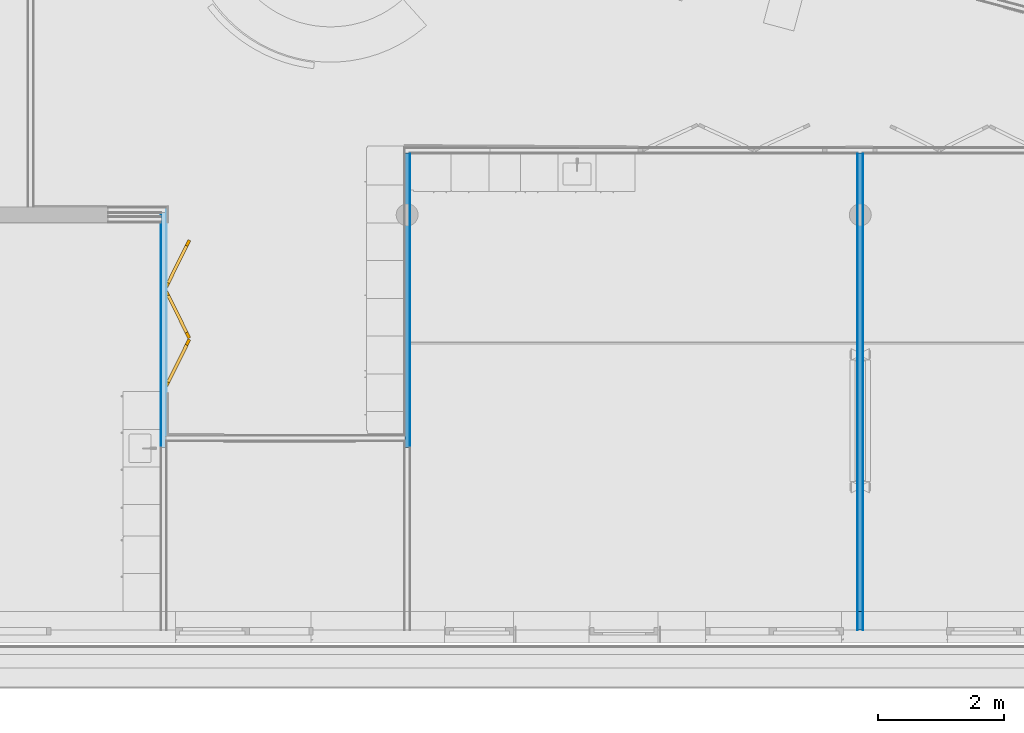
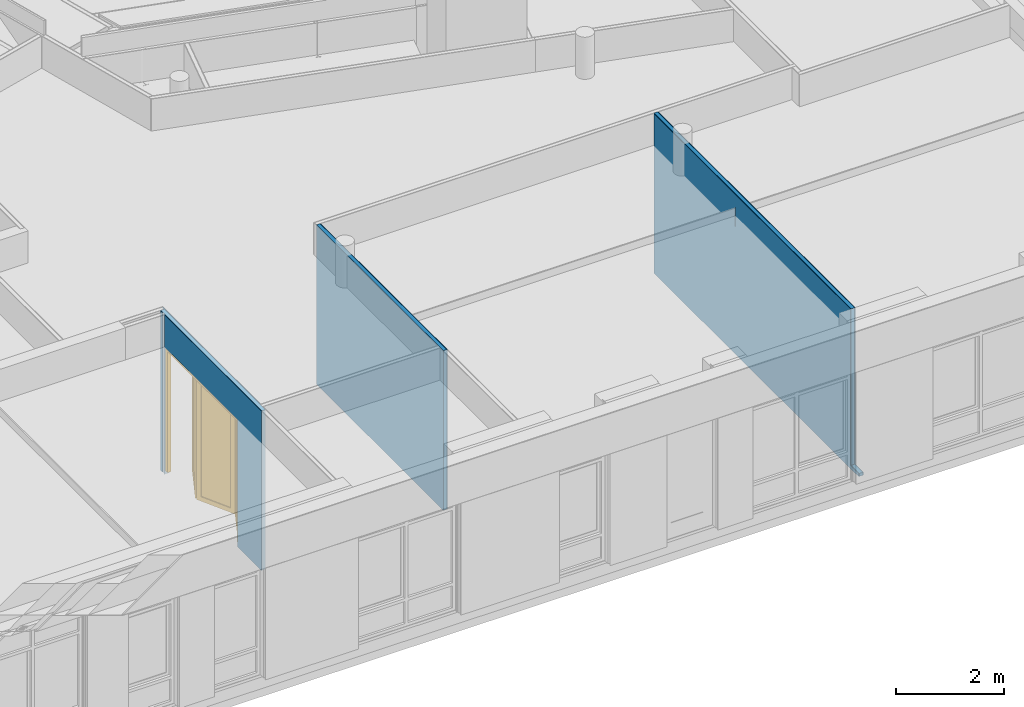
# One storey, part 52 of 167: 6 building element parts, 1 door, 1 opening, 3 elements without a shape of their own, plus 2 elements that do not belong to this part.
"""IFC2X3 building model written with IfcOpenShell, lengths in millimetres."""

from ifc_helpers import new_model, entity, si_unit, converted_unit, derived_unit, money_unit, direction, frame, origin_with_axes, place, context, subcontext, project, spatial, open_shell, faceted_brep, surface_model, material, type_object, element, fill, aggregate, save


model = new_model("IFC2X3")

# Units and contexts
model_context = context("Model", 3, precision=0.01, world=origin_with_axes(), true_north=direction((0.0, 1.0)))
plan_context = context("Plan", 3, precision=0.01, world=origin_with_axes(), true_north=direction((0.0, 1.0)))
body_context = subcontext(model_context, "Body", "Model", "MODEL_VIEW")
ifc_project = project(units=[si_unit("LENGTHUNIT", "METRE", prefix="MILLI"), si_unit("AREAUNIT", "SQUARE_METRE"), si_unit("VOLUMEUNIT", "CUBIC_METRE"), converted_unit("PLANEANGLEUNIT", "DEGREE", entity("IfcPlaneAngleMeasure", 0.0174532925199), si_unit("PLANEANGLEUNIT", "RADIAN"), dimensions=[0, 0, 0, 0, 0, 0, 0]), si_unit("SOLIDANGLEUNIT", "STERADIAN"), money_unit("EUR"), converted_unit("TIMEUNIT", "Year", entity("IfcTimeMeasure", 31556926.0), si_unit("TIMEUNIT", "SECOND"), dimensions=[0, 0, 1, 0, 0, 0, 0]), si_unit("MASSUNIT", "GRAM", prefix="KILO"), si_unit("THERMODYNAMICTEMPERATUREUNIT", "DEGREE_CELSIUS"), si_unit("LUMINOUSINTENSITYUNIT", "LUMEN"), si_unit("ENERGYUNIT", "JOULE", prefix="MEGA"), derived_unit("THERMALCONDUCTANCEUNIT", [(si_unit("POWERUNIT", "WATT"), 1), (si_unit("LENGTHUNIT", "METRE"), -1), (si_unit("THERMODYNAMICTEMPERATUREUNIT", "KELVIN"), -1)]), derived_unit("SPECIFICHEATCAPACITYUNIT", [(si_unit("ENERGYUNIT", "JOULE"), 1), (si_unit("MASSUNIT", "GRAM", prefix="KILO"), -1), (si_unit("THERMODYNAMICTEMPERATUREUNIT", "KELVIN"), -1)]), derived_unit("MASSDENSITYUNIT", [(si_unit("MASSUNIT", "GRAM", prefix="KILO"), 1), (si_unit("VOLUMEUNIT", "CUBIC_METRE"), -1)])], contexts=[model_context, plan_context])

# Site, building, storey
site_placement = place(None, origin_with_axes())
site = spatial("IfcSite", under=ifc_project, at=site_placement, Name="Site", CompositionType="ELEMENT")
building_placement = place(site_placement, origin_with_axes())
building = spatial("IfcBuilding", under=site, at=building_placement, Name="Naam gebouw", CompositionType="ELEMENT")
storey_placement = place(building_placement, origin_with_axes())
storey = spatial("IfcBuildingStorey", under=building, at=storey_placement, Name="Begane grond", CompositionType="ELEMENT", Elevation=0.0)

# Door
door_style = type_object("IfcDoorStyle", Name="DV1 24", ConstructionType="NOTDEFINED", OperationType="FOLDING_TO_LEFT", ParameterTakesPrecedence=False, Sizeable=False)
wall_2_placement = place(storey_placement, frame((10531.8272344, 3650.0, -100.0), z_axis=(0.0, 0.0, 1.0), x_axis=(0.0, 1.0, 0.0)))
opening_placement = place(wall_2_placement, frame((2075.0, 0.0, 100.0), z_axis=(0.0, 0.0, 1.0), x_axis=(1.0, 0.0, 0.0)))
door_placement = place(opening_placement, frame((1350.0, 0.0, 0.0), z_axis=(0.0, 0.0, 1.0), x_axis=(-1.0, 0.0, 0.0)))
door = element("IfcDoor", 1, at=door_placement, inside=storey, type_object=door_style, Name="32_Deur_Si-03", ObjectType="DOOR", OverallHeight=2800.0, OverallWidth=2700.0, context=body_context, shape_type="SurfaceModel", body=[
    faceted_brep([(2700.0, 50.0, 0.0), (2700.0, -30.0, 0.0), (2633.0, -30.0, 0.0), (2633.0, 50.0, 0.0), (2700.0, 50.0, 2733.0), (2700.0, -30.0, 2733.0), (2633.0, -30.0, 2733.0), (2633.0, 50.0, 2733.0)], [[[0, 1, 2, 3]], [[4, 5, 1, 0]], [[1, 5, 6, 2]], [[3, 2, 6, 7]], [[0, 3, 7, 4]], [[7, 6, 5, 4]]]),
    faceted_brep([(0.0, 50.0, 0.0), (0.0, -30.0, 0.0), (0.0, -30.0, 2733.0), (0.0, 50.0, 2733.0), (67.0, 50.0, 0.0), (67.0, -30.0, 0.0), (67.0, -30.0, 2733.0), (67.0, 50.0, 2733.0)], [[[0, 1, 2, 3]], [[4, 5, 1, 0]], [[1, 5, 6, 2]], [[3, 2, 6, 7]], [[0, 3, 7, 4]], [[7, 6, 5, 4]]]),
    faceted_brep([(2700.0, 50.0, 2800.0), (2700.0, -30.0, 2800.0), (2700.0, -30.0, 2733.0), (2700.0, 50.0, 2733.0), (0.0, 50.0, 2800.0), (0.0, -30.0, 2800.0), (0.0, -30.0, 2733.0), (67.0, -30.0, 2733.0), (2633.0, -30.0, 2733.0), (2633.0, 50.0, 2733.0), (67.0, 50.0, 2733.0), (0.0, 50.0, 2733.0)], [[[0, 1, 2, 3]], [[4, 5, 1, 0]], [[1, 5, 6, 7, 8, 2]], [[3, 2, 8, 9]], [[0, 3, 9, 10, 11, 4]], [[11, 6, 5, 4]], [[10, 7, 6, 11]], [[9, 8, 7, 10]]]),
    faceted_brep([(2633.0, 50.0, 100.0), (2610.80870806, 5.1943467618, 100.0), (2521.19740159, 49.5769306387, 100.0), (2543.38869352, 94.3825838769, 100.0), (2633.0, 50.0, 2633.0), (2610.80870806, 5.1943467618, 2633.0), (2521.19740159, 49.5769306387, 2633.0), (2543.38869352, 94.3825838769, 2633.0)], [[[0, 1, 2, 3]], [[4, 5, 1, 0]], [[1, 5, 6, 2]], [[3, 2, 6, 7]], [[0, 3, 7, 4]], [[7, 6, 5, 4]]]),
    faceted_brep([(1866.52462527, 429.619034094, 100.0), (1844.33333333, 384.813380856, 100.0), (1844.33333333, 384.813380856, 2633.0), (1866.52462527, 429.619034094, 2633.0), (1956.13593175, 385.236450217, 100.0), (1933.94463981, 340.430796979, 100.0), (1933.94463981, 340.430796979, 2633.0), (1956.13593175, 385.236450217, 2633.0)], [[[0, 1, 2, 3]], [[4, 5, 1, 0]], [[1, 5, 6, 2]], [[3, 2, 6, 7]], [[0, 3, 7, 4]], [[7, 6, 5, 4]]]),
    faceted_brep([(2633.0, 50.0, 0.0), (2610.80870806, 5.1943467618, 0.0), (1844.33333333, 384.813380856, 0.0), (1866.52462527, 429.619034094, 0.0), (2633.0, 50.0, 100.0), (2610.80870806, 5.1943467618, 100.0), (2521.19740159, 49.5769306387, 100.0), (1933.94463981, 340.430796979, 100.0), (1844.33333333, 384.813380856, 100.0), (1866.52462527, 429.619034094, 100.0), (1956.13593175, 385.236450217, 100.0), (2543.38869352, 94.3825838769, 100.0)], [[[0, 1, 2, 3]], [[4, 5, 1, 0]], [[1, 5, 6, 7, 8, 2]], [[3, 2, 8, 9]], [[0, 3, 9, 10, 11, 4]], [[11, 6, 5, 4]], [[10, 7, 6, 11]], [[9, 8, 7, 10]]]),
    faceted_brep([(2633.0, 50.0, 2733.0), (2610.80870806, 5.1943467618, 2733.0), (2610.80870806, 5.1943467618, 2633.0), (2633.0, 50.0, 2633.0), (1866.52462527, 429.619034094, 2733.0), (1844.33333333, 384.813380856, 2733.0), (1844.33333333, 384.813380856, 2633.0), (1933.94463981, 340.430796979, 2633.0), (2521.19740159, 49.5769306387, 2633.0), (2543.38869352, 94.3825838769, 2633.0), (1956.13593175, 385.236450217, 2633.0), (1866.52462527, 429.619034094, 2633.0)], [[[0, 1, 2, 3]], [[4, 5, 1, 0]], [[1, 5, 6, 7, 8, 2]], [[3, 2, 8, 9]], [[0, 3, 9, 10, 11, 4]], [[11, 6, 5, 4]], [[10, 7, 6, 11]], [[9, 8, 7, 10]]]),
    surface_model("IfcShellBasedSurfaceModel", [(1947.70324081, 368.210301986, 100.0), (1947.70324081, 368.210301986, 2633.0), (2534.95600259, 77.3564356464, 2633.0), (2534.95600259, 77.3564356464, 100.0)], [open_shell([[[0, 1, 2, 3]]])]),
    surface_model("IfcShellBasedSurfaceModel", [(1942.37733075, 357.456945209, 100.0), (2529.63009252, 66.6030788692, 100.0), (2529.63009252, 66.6030788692, 2633.0), (1942.37733075, 357.456945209, 2633.0)], [open_shell([[[0, 1, 2, 3]]])]),
    faceted_brep([(1822.14204139, 429.619034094, 100.0), (1844.33333333, 384.813380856, 100.0), (1754.72202686, 340.430796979, 100.0), (1732.53073492, 385.236450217, 100.0), (1822.14204139, 429.619034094, 2633.0), (1844.33333333, 384.813380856, 2633.0), (1754.72202686, 340.430796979, 2633.0), (1732.53073492, 385.236450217, 2633.0)], [[[0, 1, 2, 3]], [[4, 5, 1, 0]], [[1, 5, 6, 2]], [[3, 2, 6, 7]], [[0, 3, 7, 4]], [[7, 6, 5, 4]]]),
    faceted_brep([(1055.66666667, 50.0, 100.0), (1077.85795861, 5.1943467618, 100.0), (1077.85795861, 5.1943467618, 2633.0), (1055.66666667, 50.0, 2633.0), (1145.27797314, 94.3825838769, 100.0), (1167.46926508, 49.5769306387, 100.0), (1167.46926508, 49.5769306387, 2633.0), (1145.27797314, 94.3825838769, 2633.0)], [[[0, 1, 2, 3]], [[4, 5, 1, 0]], [[1, 5, 6, 2]], [[3, 2, 6, 7]], [[0, 3, 7, 4]], [[7, 6, 5, 4]]]),
    faceted_brep([(1822.14204139, 429.619034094, 0.0), (1844.33333333, 384.813380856, 0.0), (1077.85795861, 5.1943467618, 0.0), (1055.66666667, 50.0, 0.0), (1822.14204139, 429.619034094, 100.0), (1844.33333333, 384.813380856, 100.0), (1754.72202686, 340.430796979, 100.0), (1167.46926508, 49.5769306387, 100.0), (1077.85795861, 5.1943467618, 100.0), (1055.66666667, 50.0, 100.0), (1145.27797314, 94.3825838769, 100.0), (1732.53073492, 385.236450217, 100.0)], [[[0, 1, 2, 3]], [[4, 5, 1, 0]], [[1, 5, 6, 7, 8, 2]], [[3, 2, 8, 9]], [[0, 3, 9, 10, 11, 4]], [[11, 6, 5, 4]], [[10, 7, 6, 11]], [[9, 8, 7, 10]]]),
    faceted_brep([(1822.14204139, 429.619034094, 2733.0), (1844.33333333, 384.813380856, 2733.0), (1844.33333333, 384.813380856, 2633.0), (1822.14204139, 429.619034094, 2633.0), (1055.66666667, 50.0, 2733.0), (1077.85795861, 5.1943467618, 2733.0), (1077.85795861, 5.1943467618, 2633.0), (1167.46926508, 49.5769306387, 2633.0), (1754.72202686, 340.430796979, 2633.0), (1732.53073492, 385.236450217, 2633.0), (1145.27797314, 94.3825838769, 2633.0), (1055.66666667, 50.0, 2633.0)], [[[0, 1, 2, 3]], [[4, 5, 1, 0]], [[1, 5, 6, 7, 8, 2]], [[3, 2, 8, 9]], [[0, 3, 9, 10, 11, 4]], [[11, 6, 5, 4]], [[10, 7, 6, 11]], [[9, 8, 7, 10]]]),
    surface_model("IfcShellBasedSurfaceModel", [(1153.71066408, 77.3564356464, 100.0), (1153.71066408, 77.3564356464, 2633.0), (1740.96342586, 368.210301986, 2633.0), (1740.96342586, 368.210301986, 100.0)], [open_shell([[[0, 1, 2, 3]]])]),
    surface_model("IfcShellBasedSurfaceModel", [(1159.03657414, 66.6030788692, 100.0), (1746.28933592, 357.456945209, 100.0), (1746.28933592, 357.456945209, 2633.0), (1159.03657414, 66.6030788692, 2633.0)], [open_shell([[[0, 1, 2, 3]]])]),
    faceted_brep([(1055.66666667, 50.0, 100.0), (1033.47537473, 5.1943467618, 100.0), (943.864068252, 49.5769306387, 100.0), (966.05536019, 94.3825838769, 100.0), (1055.66666667, 50.0, 2633.0), (1033.47537473, 5.1943467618, 2633.0), (943.864068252, 49.5769306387, 2633.0), (966.05536019, 94.3825838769, 2633.0)], [[[0, 1, 2, 3]], [[4, 5, 1, 0]], [[1, 5, 6, 2]], [[3, 2, 6, 7]], [[0, 3, 7, 4]], [[7, 6, 5, 4]]]),
    faceted_brep([(289.191291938, 429.619034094, 100.0), (267.0, 384.813380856, 100.0), (267.0, 384.813380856, 2633.0), (289.191291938, 429.619034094, 2633.0), (378.802598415, 385.236450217, 100.0), (356.611306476, 340.430796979, 100.0), (356.611306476, 340.430796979, 2633.0), (378.802598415, 385.236450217, 2633.0)], [[[0, 1, 2, 3]], [[4, 5, 1, 0]], [[1, 5, 6, 2]], [[3, 2, 6, 7]], [[0, 3, 7, 4]], [[7, 6, 5, 4]]]),
    faceted_brep([(1055.66666667, 50.0, 0.0), (1033.47537473, 5.1943467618, 0.0), (267.0, 384.813380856, 0.0), (289.191291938, 429.619034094, 0.0), (1055.66666667, 50.0, 100.0), (1033.47537473, 5.1943467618, 100.0), (943.864068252, 49.5769306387, 100.0), (356.611306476, 340.430796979, 100.0), (267.0, 384.813380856, 100.0), (289.191291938, 429.619034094, 100.0), (378.802598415, 385.236450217, 100.0), (966.05536019, 94.3825838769, 100.0)], [[[0, 1, 2, 3]], [[4, 5, 1, 0]], [[1, 5, 6, 7, 8, 2]], [[3, 2, 8, 9]], [[0, 3, 9, 10, 11, 4]], [[11, 6, 5, 4]], [[10, 7, 6, 11]], [[9, 8, 7, 10]]]),
    faceted_brep([(1055.66666667, 50.0, 2733.0), (1033.47537473, 5.1943467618, 2733.0), (1033.47537473, 5.1943467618, 2633.0), (1055.66666667, 50.0, 2633.0), (289.191291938, 429.619034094, 2733.0), (267.0, 384.813380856, 2733.0), (267.0, 384.813380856, 2633.0), (356.611306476, 340.430796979, 2633.0), (943.864068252, 49.5769306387, 2633.0), (966.05536019, 94.3825838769, 2633.0), (378.802598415, 385.236450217, 2633.0), (289.191291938, 429.619034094, 2633.0)], [[[0, 1, 2, 3]], [[4, 5, 1, 0]], [[1, 5, 6, 7, 8, 2]], [[3, 2, 8, 9]], [[0, 3, 9, 10, 11, 4]], [[11, 6, 5, 4]], [[10, 7, 6, 11]], [[9, 8, 7, 10]]]),
    surface_model("IfcShellBasedSurfaceModel", [(370.369907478, 368.210301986, 100.0), (370.369907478, 368.210301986, 2633.0), (957.622669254, 77.3564356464, 2633.0), (957.622669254, 77.3564356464, 100.0)], [open_shell([[[0, 1, 2, 3]]])]),
    surface_model("IfcShellBasedSurfaceModel", [(365.043997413, 357.456945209, 100.0), (952.296759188, 66.6030788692, 100.0), (952.296759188, 66.6030788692, 2633.0), (365.043997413, 357.456945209, 2633.0)], [open_shell([[[0, 1, 2, 3]]])]),
])

# Wall, building element parts
wall_type = type_object("IfcWallType", Name="_TenW_22_Metalstud 100 enkel gipsvezelplaat 100", PredefinedType="NOTDEFINED")
wall_1_placement = place(storey_placement, frame((21600.0, 600.0, -100.0), z_axis=(0.0, 0.0, 1.0), x_axis=(0.0, 1.0, 0.0)))
wall_1 = element("IfcWall", 2, at=wall_1_placement, inside=storey, type_object=wall_type, Name="22_Wand_Wand-x")
ifc_material_1 = material(Name="Gipsplaat watervast")
building_element_part_1_placement = place(wall_1_placement, origin_with_axes())
building_element_part_1 = element("IfcBuildingElementPart", 3, at=building_element_part_1_placement, material=ifc_material_1, Name="Gipsplaat watervast", context=body_context, shape_type="Brep", body=[
    faceted_brep([(0.0, 37.5, 30.0), (7573.34783859, 37.5, 30.0), (7573.34783859, 37.5, 3629.99999997), (300.0, 37.5, 3630.0), (300.0, 37.5, 100.0), (0.0, 37.5, 100.0), (4573.34783859, 37.5, 2910.0), (4548.34783859, 37.5, 2910.0), (4548.34783859, 37.5, 3329.9999986), (4573.34783859, 37.5, 3329.9999986), (7573.34783859, 50.0, 30.0), (0.0, 50.0, 30.0), (7573.34783859, 50.0, 3629.99999997), (300.0, 50.0, 3630.0), (300.0, 50.0, 100.0), (0.0, 50.0, 100.0), (4548.34783859, 50.0, 2910.0), (4573.34783859, 50.0, 2910.0), (4548.34783859, 50.0, 3329.9999986), (4573.34783859, 50.0, 3329.9999986)], [[[0, 1, 2, 3, 4, 5], [6, 7, 8, 9]], [[10, 1, 0, 11]], [[1, 10, 12, 2]], [[12, 13, 3, 2]], [[4, 3, 13, 14]], [[15, 5, 4, 14]], [[11, 0, 5, 15]], [[16, 7, 6, 17]], [[18, 8, 7, 16]], [[19, 9, 8, 18]], [[17, 6, 9, 19]], [[10, 11, 15, 14, 13, 12], [18, 16, 17, 19]]]),
])
ifc_material_2 = material(Name="Isolatie - Steenwol zacht")
building_element_part_2_placement = place(wall_1_placement, origin_with_axes())
building_element_part_2 = element("IfcBuildingElementPart", 4, at=building_element_part_2_placement, material=ifc_material_2, Name="Isolatie - Steenwol zacht", context=body_context, shape_type="Brep", body=[
    faceted_brep([(0.0, -37.5, 30.0), (7585.84783859, -37.5, 30.0), (7585.84783859, -37.5, 3629.99999997), (300.0, -37.5, 3630.0), (300.0, -37.5, 100.0), (0.0, -37.5, 100.0), (7585.84783859, 37.5, 30.0), (0.0, 37.5, 30.0), (7585.84783859, 37.5, 3629.99999997), (300.0, 37.5, 3630.0), (300.0, 37.5, 100.0), (0.0, 37.5, 100.0)], [[[0, 1, 2, 3, 4, 5]], [[6, 1, 0, 7]], [[1, 6, 8, 2]], [[8, 9, 3, 2]], [[4, 3, 9, 10]], [[11, 5, 4, 10]], [[7, 0, 5, 11]], [[6, 7, 11, 10, 9, 8]]]),
])
building_element_part_3_placement = place(wall_1_placement, origin_with_axes())
building_element_part_3 = element("IfcBuildingElementPart", 5, at=building_element_part_3_placement, material=ifc_material_1, Name="Gipsplaat watervast", context=body_context, shape_type="Brep", body=[
    faceted_brep([(0.0, -50.0, 30.0), (7573.34783859, -50.0, 30.0), (7573.34783859, -50.0, 3629.99999997), (300.0, -50.0, 3630.0), (300.0, -50.0, 100.0), (0.0, -50.0, 100.0), (4573.34783859, -50.0, 2910.0), (4548.34783859, -50.0, 2910.0), (4548.34783859, -50.0, 3329.99999859), (4573.34783859, -50.0, 3329.99999859), (7573.34783859, -37.5, 30.0), (0.0, -37.5, 30.0), (7573.34783859, -37.5, 3629.99999997), (300.0, -37.5, 3630.0), (300.0, -37.5, 100.0), (0.0, -37.5, 100.0), (4548.34783859, -37.5, 2910.0), (4573.34783859, -37.5, 2910.0), (4548.34783859, -37.5, 3329.99999859), (4573.34783859, -37.5, 3329.99999859)], [[[0, 1, 2, 3, 4, 5], [6, 7, 8, 9]], [[10, 1, 0, 11]], [[1, 10, 12, 2]], [[12, 13, 3, 2]], [[4, 3, 13, 14]], [[15, 5, 4, 14]], [[11, 0, 5, 15]], [[16, 7, 6, 17]], [[18, 8, 7, 16]], [[19, 9, 8, 18]], [[17, 6, 9, 19]], [[10, 11, 15, 14, 13, 12], [18, 16, 17, 19]]]),
])
aggregate(wall_1, [building_element_part_1, building_element_part_2, building_element_part_3])

# Wall, opening
wall_2 = element("IfcWall", 6, at=wall_2_placement, inside=storey, type_object=wall_type, Name="22_Wand_Wand-x")
opening = element("IfcOpeningElement", 7, at=opening_placement, cuts=wall_2, Name="32_Deur_Si-03", context=body_context, shape_type="Brep", body=[
    faceted_brep([(1350.0, -200.0, 2800.0), (1350.0, -200.0, 0.0), (1350.0, 100.0, 0.0), (1350.0, 100.0, 2800.0), (-1350.0, -200.0, 2800.0), (-1350.0, -200.0, 0.0), (-1350.0, 100.0, 0.0), (-1350.0, 100.0, 2800.0)], [[[0, 1, 2, 3]], [[0, 4, 5, 1]], [[1, 5, 6, 2]], [[3, 2, 6, 7]], [[4, 0, 3, 7]], [[5, 4, 7, 6]]]),
])

fill(opening, door)

# Building element part
building_element_part_4_placement = place(wall_2_placement, origin_with_axes())
building_element_part_4 = element("IfcBuildingElementPart", 8, at=building_element_part_4_placement, material=ifc_material_1, Name="Gipsplaat watervast", context=body_context, shape_type="Brep", body=[
    faceted_brep([(725.0, 37.5, 100.0), (725.0, 37.5, 2900.0), (3425.0, 37.5, 2900.0), (3425.0, 37.5, 100.0), (3425.0, 37.5, 30.0), (3437.5, 37.5, 30.0), (3437.5, 37.5, 3629.99999709), (-150.0, 37.5, 3629.99999709), (-150.0, 37.5, 30.0), (725.0, 37.5, 30.0), (725.0, 50.0, 100.0), (725.0, 50.0, 2900.0), (3425.0, 50.0, 2900.0), (3425.0, 50.0, 100.0), (3425.0, 50.0, 30.0), (3437.5, 50.0, 30.0), (3437.5, 50.0, 3629.99999709), (-150.0, 50.0, 3629.99999709), (-150.0, 50.0, 30.0), (725.0, 50.0, 30.0)], [[[0, 1, 2, 3, 4, 5, 6, 7, 8, 9]], [[1, 0, 10, 11]], [[2, 1, 11, 12]], [[3, 2, 12, 13]], [[3, 13, 14, 4]], [[14, 15, 5, 4]], [[15, 16, 6, 5]], [[17, 7, 6, 16]], [[8, 7, 17, 18]], [[9, 8, 18, 19]], [[10, 0, 9, 19]], [[11, 10, 19, 18, 17, 16, 15, 14, 13, 12]]]),
    faceted_brep([(3512.5, 37.5, 30.0), (3575.0, 37.5, 30.0), (3575.0, 37.5, 3629.99999709), (3512.5, 37.5, 3629.99999709), (3575.0, 50.0, 30.0), (3512.5, 50.0, 30.0), (3575.0, 50.0, 3629.99999709), (3512.5, 50.0, 3629.99999709)], [[[0, 1, 2, 3]], [[4, 1, 0, 5]], [[1, 4, 6, 2]], [[7, 3, 2, 6]], [[5, 0, 3, 7]], [[4, 5, 7, 6]]]),
])

building_element_part_5_placement = place(wall_2_placement, origin_with_axes())
building_element_part_5 = element("IfcBuildingElementPart", 9, at=building_element_part_5_placement, material=ifc_material_2, Name="Isolatie - Steenwol zacht", context=body_context, shape_type="Brep", body=[
    faceted_brep([(725.0, -37.5, 100.0), (725.0, -37.5, 2900.0), (3425.0, -37.5, 2900.0), (3425.0, -37.5, 100.0), (3425.0, -37.5, 30.0), (3587.5, -37.5, 30.0), (3587.5, -37.5, 3629.99999709), (-150.0, -37.5, 3629.99999709), (-150.0, -37.5, 30.0), (725.0, -37.5, 30.0), (725.0, 37.5, 100.0), (725.0, 37.5, 2900.0), (3425.0, 37.5, 2900.0), (3425.0, 37.5, 100.0), (3425.0, 37.5, 30.0), (3587.5, 37.5, 30.0), (3587.5, 37.5, 3629.99999709), (-150.0, 37.5, 3629.99999709), (-150.0, 37.5, 30.0), (725.0, 37.5, 30.0)], [[[0, 1, 2, 3, 4, 5, 6, 7, 8, 9]], [[1, 0, 10, 11]], [[2, 1, 11, 12]], [[3, 2, 12, 13]], [[3, 13, 14, 4]], [[14, 15, 5, 4]], [[15, 16, 6, 5]], [[17, 7, 6, 16]], [[8, 7, 17, 18]], [[9, 8, 18, 19]], [[10, 0, 9, 19]], [[11, 10, 19, 18, 17, 16, 15, 14, 13, 12]]]),
])

building_element_part_6_placement = place(wall_2_placement, origin_with_axes())
building_element_part_6 = element("IfcBuildingElementPart", 10, at=building_element_part_6_placement, material=ifc_material_1, Name="Gipsplaat watervast", context=body_context, shape_type="Brep", body=[
    faceted_brep([(725.0, -50.0, 100.0), (725.0, -50.0, 2900.0), (3425.0, -50.0, 2900.0), (3425.0, -50.0, 100.0), (3425.0, -50.0, 30.0), (3662.5, -50.0, 30.0), (3662.5, -50.0, 3629.99999709), (50.0, -50.0, 3629.99999674), (50.0, -50.0, 30.0), (725.0, -50.0, 30.0), (725.0, -37.5, 100.0), (725.0, -37.5, 2900.0), (3425.0, -37.5, 2900.0), (3425.0, -37.5, 100.0), (3425.0, -37.5, 30.0), (3662.5, -37.5, 30.0), (3662.5, -37.5, 3629.99999709), (50.0, -37.5, 3629.99999674), (50.0, -37.5, 30.0), (725.0, -37.5, 30.0)], [[[0, 1, 2, 3, 4, 5, 6, 7, 8, 9]], [[1, 0, 10, 11]], [[2, 1, 11, 12]], [[3, 2, 12, 13]], [[3, 13, 14, 4]], [[14, 15, 5, 4]], [[15, 16, 6, 5]], [[17, 7, 6, 16]], [[8, 7, 17, 18]], [[9, 8, 18, 19]], [[10, 0, 9, 19]], [[11, 10, 19, 18, 17, 16, 15, 14, 13, 12]]]),
])

aggregate(wall_2, [building_element_part_4, building_element_part_5, building_element_part_6])

# Wall, building element parts
wall_3_placement = place(storey_placement, frame((14400.0, 3650.0, -100.0), z_axis=(0.0, 0.0, 1.0), x_axis=(0.0, 1.0, 0.0)))
wall_3 = element("IfcWall", 11, at=wall_3_placement, inside=storey, type_object=wall_type, Name="22_Wand_Wand-x")
building_element_part_7_placement = place(wall_3_placement, origin_with_axes())
building_element_part_7 = element("IfcBuildingElementPart", 12, at=building_element_part_7_placement, material=ifc_material_2, Name="Isolatie - Steenwol zacht", context=body_context, shape_type="Brep", body=[
    faceted_brep([(-150.0, -37.5, 30.0), (4535.84783859, -37.5, 30.0), (4535.84783859, -37.5, 3629.99999752), (-150.0, -37.5, 3629.99999752), (4535.84783859, 37.5, 30.0), (-150.0, 37.5, 30.0), (4535.84783859, 37.5, 3629.99999752), (-150.0, 37.5, 3629.99999752)], [[[0, 1, 2, 3]], [[4, 1, 0, 5]], [[1, 4, 6, 2]], [[6, 7, 3, 2]], [[5, 0, 3, 7]], [[4, 5, 7, 6]]]),
])
building_element_part_8_placement = place(wall_3_placement, origin_with_axes())
building_element_part_8 = element("IfcBuildingElementPart", 13, at=building_element_part_8_placement, material=ifc_material_1, Name="Gipsplaat watervast", context=body_context, shape_type="Brep", body=[
    faceted_brep([(-150.0, -50.0, 30.0), (4523.34783859, -50.0, 30.0), (4523.34783859, -50.0, 3629.99999752), (-150.0, -50.0, 3629.99999752), (1523.34783859, -50.0, 2910.0), (1498.34783859, -50.0, 2910.0), (1498.34783859, -50.0, 3329.99999996), (1523.34783859, -50.0, 3329.99999996), (4523.34783859, -37.5, 30.0), (-150.0, -37.5, 30.0), (4523.34783859, -37.5, 3629.99999752), (-150.0, -37.5, 3629.99999752), (1498.34783859, -37.5, 2910.0), (1523.34783859, -37.5, 2910.0), (1498.34783859, -37.5, 3329.99999996), (1523.34783859, -37.5, 3329.99999996)], [[[0, 1, 2, 3], [4, 5, 6, 7]], [[8, 1, 0, 9]], [[1, 8, 10, 2]], [[10, 11, 3, 2]], [[9, 0, 3, 11]], [[12, 5, 4, 13]], [[14, 6, 5, 12]], [[15, 7, 6, 14]], [[13, 4, 7, 15]], [[8, 9, 11, 10], [14, 12, 13, 15]]]),
])
aggregate(wall_3, [building_element_part_7, building_element_part_8])

save(model, "model.ifc")
